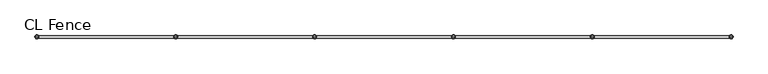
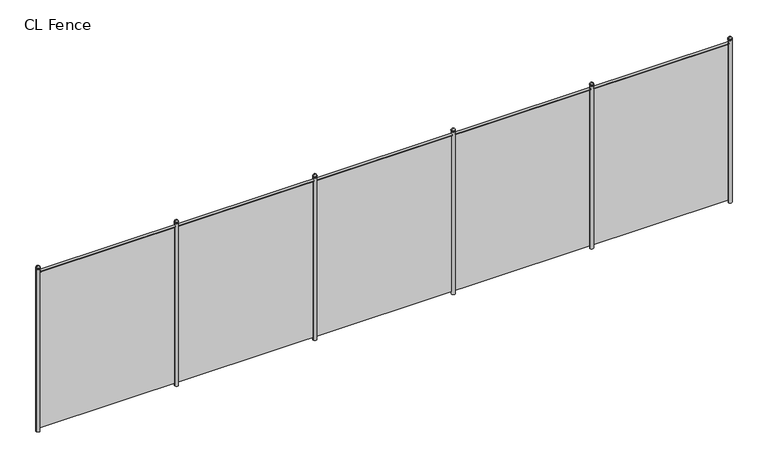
"""IFC4 building model written with IfcOpenShell, lengths in millimetres: geographic element geometry, Alambrado : CL Fence."""

from ifc_helpers import new_model, si_unit, point, frame, frame_2d, origin, place, context, project, spatial, polyline, circle_curve, ellipse_curve, trimmed, segment, composite_curve, outline, extrude, source, transform, mapped, element, save
from ifc_brep_helpers import plane_surface, cylinder_surface, revolved_surface, advanced_brep


def cl_fence_2019edca(model_context):
    return source(origin(), model_context, "Body", "SolidModel", [
        advanced_brep(
        [(9733.8860441, 0.0, 3055.5625), (9794.8724408, 0.0, 3055.5625), (9796.1292425, 0.0, 3055.5625), (9732.6292425, 0.0, 3055.5625), (9764.3792425, 0.0, 3086.0556984), (9732.6292425, 0.0, 3033.3375), (9796.1292425, 0.0, 3033.3375), (9764.3792425, 0.0, 3033.3375), (9732.6292425, 0.0, 3050.8), (9796.1292425, 0.0, 3050.8)],
        [
            (0, 1, circle_curve(frame((9764.3792425, 0.0, 3055.5625), z_axis=(0.0, 0.0, -1.0), x_axis=(1.0, 0.0, 0.0)), 30.4931984)),
            (1, 2),
            (2, 3, circle_curve(frame((9764.3792425, 0.0, 3055.5625), z_axis=(0.0, 0.0, 1.0), x_axis=(1.0, 0.0, 0.0)), 31.75)),
            (3, 0),
            (1, 0, circle_curve(frame((9764.3792425, 0.0, 3055.5625), z_axis=(0.0, 0.0, -1.0), x_axis=(1.0, 0.0, 0.0)), 30.4931984)),
            (3, 2, circle_curve(frame((9764.3792425, 0.0, 3055.5625), z_axis=(0.0, 0.0, 1.0), x_axis=(1.0, 0.0, 0.0)), 31.75)),
            (4, 1, circle_curve(frame((9757.5235753, 0.0, 3048.7068328), z_axis=(0.0, 1.0, 0.0), x_axis=(1.0, 0.0, 0.0)), 37.9728578)),
            (0, 4, circle_curve(frame((9771.2349097, 0.0, 3048.7068328), z_axis=(0.0, 1.0, 0.0), x_axis=(-1.0, 0.0, 0.0)), 37.9728578)),
            (5, 6, circle_curve(frame((9764.3792425, 0.0, 3033.3375), z_axis=(0.0, 0.0, -1.0), x_axis=(1.0, 0.0, 0.0)), 31.75)),
            (6, 7),
            (7, 5),
            (6, 5, circle_curve(frame((9764.3792425, 0.0, 3033.3375), z_axis=(0.0, 0.0, -1.0), x_axis=(1.0, 0.0, 0.0)), 31.75)),
            (8, 9, circle_curve(frame((9764.3792425, 0.0, 3050.8), z_axis=(0.0, 0.0, -1.0), x_axis=(1.0, 0.0, 0.0)), 31.75)),
            (9, 6),
            (5, 8),
            (9, 8, circle_curve(frame((9764.3792425, 0.0, 3050.8), z_axis=(0.0, 0.0, -1.0), x_axis=(1.0, 0.0, 0.0)), 31.75)),
            (2, 9, circle_curve(frame((9796.1292425, 0.0, 3053.18125), z_axis=(0.0, 1.0, 0.0), x_axis=(1.0, 0.0, 0.0)), 2.38125)),
            (8, 3, circle_curve(frame((9732.6292425, 0.0, 3053.18125), z_axis=(0.0, 1.0, 0.0), x_axis=(-1.0, 0.0, 0.0)), 2.38125)),
        ],
        [
            plane_surface(frame((9764.3792425, 0.0, 3055.5625), z_axis=(0.0, 0.0, 1.0), x_axis=(1.0, 0.0, 0.0))),
            revolved_surface(trimmed(ellipse_curve(frame((9757.5235753, 0.0, 3048.7068328), z_axis=(0.0, -1.0, 0.0), x_axis=(1.0, 0.0, 0.0)), 37.9728578, 37.9728578), [point((9794.8724408, 0.0, 3055.5625))], [point((9764.3792425, 0.0, 3086.0556984))], True, "CARTESIAN"), (9764.3792425, 0.0, 3112.7125), (0.0, 0.0, 1.0)),
            plane_surface(frame((9764.3792425, 0.0, 3033.3375), z_axis=(0.0, 0.0, -1.0), x_axis=(1.0, 0.0, 0.0))),
            cylinder_surface(frame((9764.3792425, 0.0, 3112.7125), z_axis=(0.0, 0.0, 1.0), x_axis=(1.0, 0.0, 0.0)), 31.75),
            revolved_surface(trimmed(ellipse_curve(frame((9796.1292425, 0.0, 3053.18125), z_axis=(0.0, -1.0, 0.0), x_axis=(1.0, 0.0, 0.0)), 2.38125, 2.38125), [point((9796.1292425, 0.0, 3050.8))], [point((9796.1292425, 0.0, 3055.5625))], True, "CARTESIAN"), (9764.3792425, 0.0, 3112.7125), (0.0, 0.0, 1.0)),
        ],
        [
            (0, [[1, 2, 3, 4]]),
            (0, [[5, -4, 6, -2]]),
            (1, [[7, -1, 8]]),
            (1, [[-8, -5, -7]]),
            (2, [[9, 10, 11]]),
            (2, [[12, -11, -10]]),
            (3, [[13, 14, -9, 15]]),
            (3, [[16, -15, -12, -14]]),
            (4, [[-3, 17, -13, 18]]),
            (4, [[-6, -18, -16, -17]]),
        ],
    ),
        advanced_brep(
        [(9764.3792425, 0.0, 3050.8), (9794.5417425, 0.0, 3050.8), (9734.2167425, 0.0, 3050.8), (9734.2167425, 0.0, 0.0), (9794.5417425, 0.0, 0.0), (9764.3792425, 0.0, 0.0)],
        [
            (0, 1),
            (1, 2, circle_curve(frame((9764.3792425, 0.0, 3050.8), z_axis=(0.0, 0.0, 1.0), x_axis=(1.0, 0.0, 0.0)), 30.1625)),
            (2, 0),
            (2, 1, circle_curve(frame((9764.3792425, 0.0, 3050.8), z_axis=(0.0, 0.0, 1.0), x_axis=(1.0, 0.0, 0.0)), 30.1625)),
            (3, 4, circle_curve(frame((9764.3792425, 0.0, 0.0), z_axis=(0.0, 0.0, -1.0), x_axis=(1.0, 0.0, 0.0)), 30.1625)),
            (4, 5),
            (5, 3),
            (4, 3, circle_curve(frame((9764.3792425, 0.0, 0.0), z_axis=(0.0, 0.0, -1.0), x_axis=(1.0, 0.0, 0.0)), 30.1625)),
            (1, 4),
            (3, 2),
        ],
        [
            plane_surface(frame((9764.3792425, 0.0, 3050.8), z_axis=(0.0, 0.0, 1.0), x_axis=(1.0, 0.0, 0.0))),
            plane_surface(frame((9764.3792425, 0.0, 0.0), z_axis=(0.0, 0.0, -1.0), x_axis=(1.0, 0.0, 0.0))),
            cylinder_surface(frame((9764.3792425, 0.0, 3101.6), z_axis=(0.0, 0.0, 1.0), x_axis=(1.0, 0.0, 0.0)), 30.1625),
        ],
        [
            (0, [[1, 2, 3]]),
            (0, [[-3, 4, -1]]),
            (1, [[5, 6, 7]]),
            (1, [[8, -7, -6]]),
            (2, [[-2, 9, -5, 10]]),
            (2, [[-4, -10, -8, -9]]),
        ],
    ),
        advanced_brep(
        [(7292.7912335, 0.0, 3055.5625), (7353.7776302, 0.0, 3055.5625), (7355.0344319, 0.0, 3055.5625), (7291.5344319, 0.0, 3055.5625), (7323.2844319, 0.0, 3086.0556984), (7291.5344319, 0.0, 3033.3375), (7355.0344319, 0.0, 3033.3375), (7323.2844319, 0.0, 3033.3375), (7291.5344319, 0.0, 3050.8), (7355.0344319, 0.0, 3050.8)],
        [
            (0, 1, circle_curve(frame((7323.2844319, 0.0, 3055.5625), z_axis=(0.0, 0.0, -1.0), x_axis=(1.0, 0.0, 0.0)), 30.4931984)),
            (1, 2),
            (2, 3, circle_curve(frame((7323.2844319, 0.0, 3055.5625), z_axis=(0.0, 0.0, 1.0), x_axis=(1.0, 0.0, 0.0)), 31.75)),
            (3, 0),
            (1, 0, circle_curve(frame((7323.2844319, 0.0, 3055.5625), z_axis=(0.0, 0.0, -1.0), x_axis=(1.0, 0.0, 0.0)), 30.4931984)),
            (3, 2, circle_curve(frame((7323.2844319, 0.0, 3055.5625), z_axis=(0.0, 0.0, 1.0), x_axis=(1.0, 0.0, 0.0)), 31.75)),
            (4, 1, circle_curve(frame((7316.4287646, 0.0, 3048.7068328), z_axis=(0.0, 1.0, 0.0), x_axis=(1.0, 0.0, 0.0)), 37.9728578)),
            (0, 4, circle_curve(frame((7330.1400991, 0.0, 3048.7068328), z_axis=(0.0, 1.0, 0.0), x_axis=(-1.0, 0.0, 0.0)), 37.9728578)),
            (5, 6, circle_curve(frame((7323.2844319, 0.0, 3033.3375), z_axis=(0.0, 0.0, -1.0), x_axis=(1.0, 0.0, 0.0)), 31.75)),
            (6, 7),
            (7, 5),
            (6, 5, circle_curve(frame((7323.2844319, 0.0, 3033.3375), z_axis=(0.0, 0.0, -1.0), x_axis=(1.0, 0.0, 0.0)), 31.75)),
            (8, 9, circle_curve(frame((7323.2844319, 0.0, 3050.8), z_axis=(0.0, 0.0, -1.0), x_axis=(1.0, 0.0, 0.0)), 31.75)),
            (9, 6),
            (5, 8),
            (9, 8, circle_curve(frame((7323.2844319, 0.0, 3050.8), z_axis=(0.0, 0.0, -1.0), x_axis=(1.0, 0.0, 0.0)), 31.75)),
            (2, 9, circle_curve(frame((7355.0344319, 0.0, 3053.18125), z_axis=(0.0, 1.0, 0.0), x_axis=(1.0, 0.0, 0.0)), 2.38125)),
            (8, 3, circle_curve(frame((7291.5344319, 0.0, 3053.18125), z_axis=(0.0, 1.0, 0.0), x_axis=(-1.0, 0.0, 0.0)), 2.38125)),
        ],
        [
            plane_surface(frame((7323.2844319, 0.0, 3055.5625), z_axis=(0.0, 0.0, 1.0), x_axis=(1.0, 0.0, 0.0))),
            revolved_surface(trimmed(ellipse_curve(frame((7316.4287646, 0.0, 3048.7068328), z_axis=(0.0, -1.0, 0.0), x_axis=(1.0, 0.0, 0.0)), 37.9728578, 37.9728578), [point((7353.7776302, 0.0, 3055.5625))], [point((7323.2844319, 0.0, 3086.0556984))], True, "CARTESIAN"), (7323.2844319, 0.0, 3112.7125), (0.0, 0.0, 1.0)),
            plane_surface(frame((7323.2844319, 0.0, 3033.3375), z_axis=(0.0, 0.0, -1.0), x_axis=(1.0, 0.0, 0.0))),
            cylinder_surface(frame((7323.2844319, 0.0, 3112.7125), z_axis=(0.0, 0.0, 1.0), x_axis=(1.0, 0.0, 0.0)), 31.75),
            revolved_surface(trimmed(ellipse_curve(frame((7355.0344319, 0.0, 3053.18125), z_axis=(0.0, -1.0, 0.0), x_axis=(1.0, 0.0, 0.0)), 2.38125, 2.38125), [point((7355.0344319, 0.0, 3050.8))], [point((7355.0344319, 0.0, 3055.5625))], True, "CARTESIAN"), (7323.2844319, 0.0, 3112.7125), (0.0, 0.0, 1.0)),
        ],
        [
            (0, [[1, 2, 3, 4]]),
            (0, [[5, -4, 6, -2]]),
            (1, [[7, -1, 8]]),
            (1, [[-8, -5, -7]]),
            (2, [[9, 10, 11]]),
            (2, [[12, -11, -10]]),
            (3, [[13, 14, -9, 15]]),
            (3, [[16, -15, -12, -14]]),
            (4, [[-3, 17, -13, 18]]),
            (4, [[-6, -18, -16, -17]]),
        ],
    ),
        advanced_brep(
        [(7323.2844319, 0.0, 3050.8), (7353.4469319, 0.0, 3050.8), (7293.1219319, 0.0, 3050.8), (7293.1219319, 0.0, 0.0), (7353.4469319, 0.0, 0.0), (7323.2844319, 0.0, 0.0)],
        [
            (0, 1),
            (1, 2, circle_curve(frame((7323.2844319, 0.0, 3050.8), z_axis=(0.0, 0.0, 1.0), x_axis=(1.0, 0.0, 0.0)), 30.1625)),
            (2, 0),
            (2, 1, circle_curve(frame((7323.2844319, 0.0, 3050.8), z_axis=(0.0, 0.0, 1.0), x_axis=(1.0, 0.0, 0.0)), 30.1625)),
            (3, 4, circle_curve(frame((7323.2844319, 0.0, 0.0), z_axis=(0.0, 0.0, -1.0), x_axis=(1.0, 0.0, 0.0)), 30.1625)),
            (4, 5),
            (5, 3),
            (4, 3, circle_curve(frame((7323.2844319, 0.0, 0.0), z_axis=(0.0, 0.0, -1.0), x_axis=(1.0, 0.0, 0.0)), 30.1625)),
            (1, 4),
            (3, 2),
        ],
        [
            plane_surface(frame((7323.2844319, 0.0, 3050.8), z_axis=(0.0, 0.0, 1.0), x_axis=(1.0, 0.0, 0.0))),
            plane_surface(frame((7323.2844319, 0.0, 0.0), z_axis=(0.0, 0.0, -1.0), x_axis=(1.0, 0.0, 0.0))),
            cylinder_surface(frame((7323.2844319, 0.0, 3101.6), z_axis=(0.0, 0.0, 1.0), x_axis=(1.0, 0.0, 0.0)), 30.1625),
        ],
        [
            (0, [[1, 2, 3]]),
            (0, [[-3, 4, -1]]),
            (1, [[5, 6, 7]]),
            (1, [[8, -7, -6]]),
            (2, [[-2, 9, -5, 10]]),
            (2, [[-4, -10, -8, -9]]),
        ],
    ),
        advanced_brep(
        [(4851.6964229, 0.0, 3055.5625), (4912.6828196, 0.0, 3055.5625), (4913.9396212, 0.0, 3055.5625), (4850.4396212, 0.0, 3055.5625), (4882.1896212, 0.0, 3086.0556984), (4850.4396212, 0.0, 3033.3375), (4913.9396212, 0.0, 3033.3375), (4882.1896212, 0.0, 3033.3375), (4850.4396212, 0.0, 3050.8), (4913.9396212, 0.0, 3050.8)],
        [
            (0, 1, circle_curve(frame((4882.1896212, 0.0, 3055.5625), z_axis=(0.0, 0.0, -1.0), x_axis=(1.0, 0.0, 0.0)), 30.4931984)),
            (1, 2),
            (2, 3, circle_curve(frame((4882.1896212, 0.0, 3055.5625), z_axis=(0.0, 0.0, 1.0), x_axis=(1.0, 0.0, 0.0)), 31.75)),
            (3, 0),
            (1, 0, circle_curve(frame((4882.1896212, 0.0, 3055.5625), z_axis=(0.0, 0.0, -1.0), x_axis=(1.0, 0.0, 0.0)), 30.4931984)),
            (3, 2, circle_curve(frame((4882.1896212, 0.0, 3055.5625), z_axis=(0.0, 0.0, 1.0), x_axis=(1.0, 0.0, 0.0)), 31.75)),
            (4, 1, circle_curve(frame((4875.333954, 0.0, 3048.7068328), z_axis=(0.0, 1.0, 0.0), x_axis=(1.0, 0.0, 0.0)), 37.9728578)),
            (0, 4, circle_curve(frame((4889.0452885, 0.0, 3048.7068328), z_axis=(0.0, 1.0, 0.0), x_axis=(-1.0, 0.0, 0.0)), 37.9728578)),
            (5, 6, circle_curve(frame((4882.1896212, 0.0, 3033.3375), z_axis=(0.0, 0.0, -1.0), x_axis=(1.0, 0.0, 0.0)), 31.75)),
            (6, 7),
            (7, 5),
            (6, 5, circle_curve(frame((4882.1896212, 0.0, 3033.3375), z_axis=(0.0, 0.0, -1.0), x_axis=(1.0, 0.0, 0.0)), 31.75)),
            (8, 9, circle_curve(frame((4882.1896212, 0.0, 3050.8), z_axis=(0.0, 0.0, -1.0), x_axis=(1.0, 0.0, 0.0)), 31.75)),
            (9, 6),
            (5, 8),
            (9, 8, circle_curve(frame((4882.1896212, 0.0, 3050.8), z_axis=(0.0, 0.0, -1.0), x_axis=(1.0, 0.0, 0.0)), 31.75)),
            (2, 9, circle_curve(frame((4913.9396212, 0.0, 3053.18125), z_axis=(0.0, 1.0, 0.0), x_axis=(1.0, 0.0, 0.0)), 2.38125)),
            (8, 3, circle_curve(frame((4850.4396212, 0.0, 3053.18125), z_axis=(0.0, 1.0, 0.0), x_axis=(-1.0, 0.0, 0.0)), 2.38125)),
        ],
        [
            plane_surface(frame((4882.1896212, 0.0, 3055.5625), z_axis=(0.0, 0.0, 1.0), x_axis=(1.0, 0.0, 0.0))),
            revolved_surface(trimmed(ellipse_curve(frame((4875.333954, 0.0, 3048.7068328), z_axis=(0.0, -1.0, 0.0), x_axis=(1.0, 0.0, 0.0)), 37.9728578, 37.9728578), [point((4912.6828196, 0.0, 3055.5625))], [point((4882.1896212, 0.0, 3086.0556984))], True, "CARTESIAN"), (4882.1896212, 0.0, 3112.7125), (0.0, 0.0, 1.0)),
            plane_surface(frame((4882.1896212, 0.0, 3033.3375), z_axis=(0.0, 0.0, -1.0), x_axis=(1.0, 0.0, 0.0))),
            cylinder_surface(frame((4882.1896212, 0.0, 3112.7125), z_axis=(0.0, 0.0, 1.0), x_axis=(1.0, 0.0, 0.0)), 31.75),
            revolved_surface(trimmed(ellipse_curve(frame((4913.9396212, 0.0, 3053.18125), z_axis=(0.0, -1.0, 0.0), x_axis=(1.0, 0.0, 0.0)), 2.38125, 2.38125), [point((4913.9396212, 0.0, 3050.8))], [point((4913.9396212, 0.0, 3055.5625))], True, "CARTESIAN"), (4882.1896212, 0.0, 3112.7125), (0.0, 0.0, 1.0)),
        ],
        [
            (0, [[1, 2, 3, 4]]),
            (0, [[5, -4, 6, -2]]),
            (1, [[7, -1, 8]]),
            (1, [[-8, -5, -7]]),
            (2, [[9, 10, 11]]),
            (2, [[12, -11, -10]]),
            (3, [[13, 14, -9, 15]]),
            (3, [[16, -15, -12, -14]]),
            (4, [[-3, 17, -13, 18]]),
            (4, [[-6, -18, -16, -17]]),
        ],
    ),
        advanced_brep(
        [(4882.1896212, 0.0, 3050.8), (4912.3521212, 0.0, 3050.8), (4852.0271212, 0.0, 3050.8), (4852.0271212, 0.0, 0.0), (4912.3521212, 0.0, 0.0), (4882.1896212, 0.0, 0.0)],
        [
            (0, 1),
            (1, 2, circle_curve(frame((4882.1896212, 0.0, 3050.8), z_axis=(0.0, 0.0, 1.0), x_axis=(1.0, 0.0, 0.0)), 30.1625)),
            (2, 0),
            (2, 1, circle_curve(frame((4882.1896212, 0.0, 3050.8), z_axis=(0.0, 0.0, 1.0), x_axis=(1.0, 0.0, 0.0)), 30.1625)),
            (3, 4, circle_curve(frame((4882.1896212, 0.0, 0.0), z_axis=(0.0, 0.0, -1.0), x_axis=(1.0, 0.0, 0.0)), 30.1625)),
            (4, 5),
            (5, 3),
            (4, 3, circle_curve(frame((4882.1896212, 0.0, 0.0), z_axis=(0.0, 0.0, -1.0), x_axis=(1.0, 0.0, 0.0)), 30.1625)),
            (1, 4),
            (3, 2),
        ],
        [
            plane_surface(frame((4882.1896212, 0.0, 3050.8), z_axis=(0.0, 0.0, 1.0), x_axis=(1.0, 0.0, 0.0))),
            plane_surface(frame((4882.1896212, 0.0, 0.0), z_axis=(0.0, 0.0, -1.0), x_axis=(1.0, 0.0, 0.0))),
            cylinder_surface(frame((4882.1896212, 0.0, 3101.6), z_axis=(0.0, 0.0, 1.0), x_axis=(1.0, 0.0, 0.0)), 30.1625),
        ],
        [
            (0, [[1, 2, 3]]),
            (0, [[-3, 4, -1]]),
            (1, [[5, 6, 7]]),
            (1, [[8, -7, -6]]),
            (2, [[-2, 9, -5, 10]]),
            (2, [[-4, -10, -8, -9]]),
        ],
    ),
        advanced_brep(
        [(2410.6016123, 0.0, 3055.5625), (2471.588009, 0.0, 3055.5625), (2472.8448106, 0.0, 3055.5625), (2409.3448106, 0.0, 3055.5625), (2441.0948106, 0.0, 3086.0556984), (2409.3448106, 0.0, 3033.3375), (2472.8448106, 0.0, 3033.3375), (2441.0948106, 0.0, 3033.3375), (2409.3448106, 0.0, 3050.8), (2472.8448106, 0.0, 3050.8)],
        [
            (0, 1, circle_curve(frame((2441.0948106, 0.0, 3055.5625), z_axis=(0.0, 0.0, -1.0), x_axis=(1.0, 0.0, 0.0)), 30.4931984)),
            (1, 2),
            (2, 3, circle_curve(frame((2441.0948106, 0.0, 3055.5625), z_axis=(0.0, 0.0, 1.0), x_axis=(1.0, 0.0, 0.0)), 31.75)),
            (3, 0),
            (1, 0, circle_curve(frame((2441.0948106, 0.0, 3055.5625), z_axis=(0.0, 0.0, -1.0), x_axis=(1.0, 0.0, 0.0)), 30.4931984)),
            (3, 2, circle_curve(frame((2441.0948106, 0.0, 3055.5625), z_axis=(0.0, 0.0, 1.0), x_axis=(1.0, 0.0, 0.0)), 31.75)),
            (4, 1, circle_curve(frame((2434.2391434, 0.0, 3048.7068328), z_axis=(0.0, 1.0, 0.0), x_axis=(1.0, 0.0, 0.0)), 37.9728578)),
            (0, 4, circle_curve(frame((2447.9504778, 0.0, 3048.7068328), z_axis=(0.0, 1.0, 0.0), x_axis=(-1.0, 0.0, 0.0)), 37.9728578)),
            (5, 6, circle_curve(frame((2441.0948106, 0.0, 3033.3375), z_axis=(0.0, 0.0, -1.0), x_axis=(1.0, 0.0, 0.0)), 31.75)),
            (6, 7),
            (7, 5),
            (6, 5, circle_curve(frame((2441.0948106, 0.0, 3033.3375), z_axis=(0.0, 0.0, -1.0), x_axis=(1.0, 0.0, 0.0)), 31.75)),
            (8, 9, circle_curve(frame((2441.0948106, 0.0, 3050.8), z_axis=(0.0, 0.0, -1.0), x_axis=(1.0, 0.0, 0.0)), 31.75)),
            (9, 6),
            (5, 8),
            (9, 8, circle_curve(frame((2441.0948106, 0.0, 3050.8), z_axis=(0.0, 0.0, -1.0), x_axis=(1.0, 0.0, 0.0)), 31.75)),
            (2, 9, circle_curve(frame((2472.8448106, 0.0, 3053.18125), z_axis=(0.0, 1.0, 0.0), x_axis=(1.0, 0.0, 0.0)), 2.38125)),
            (8, 3, circle_curve(frame((2409.3448106, 0.0, 3053.18125), z_axis=(0.0, 1.0, 0.0), x_axis=(-1.0, 0.0, 0.0)), 2.38125)),
        ],
        [
            plane_surface(frame((2441.0948106, 0.0, 3055.5625), z_axis=(0.0, 0.0, 1.0), x_axis=(1.0, 0.0, 0.0))),
            revolved_surface(trimmed(ellipse_curve(frame((2434.2391434, 0.0, 3048.7068328), z_axis=(0.0, -1.0, 0.0), x_axis=(1.0, 0.0, 0.0)), 37.9728578, 37.9728578), [point((2471.588009, 0.0, 3055.5625))], [point((2441.0948106, 0.0, 3086.0556984))], True, "CARTESIAN"), (2441.0948106, 0.0, 3112.7125), (0.0, 0.0, 1.0)),
            plane_surface(frame((2441.0948106, 0.0, 3033.3375), z_axis=(0.0, 0.0, -1.0), x_axis=(1.0, 0.0, 0.0))),
            cylinder_surface(frame((2441.0948106, 0.0, 3112.7125), z_axis=(0.0, 0.0, 1.0), x_axis=(1.0, 0.0, 0.0)), 31.75),
            revolved_surface(trimmed(ellipse_curve(frame((2472.8448106, 0.0, 3053.18125), z_axis=(0.0, -1.0, 0.0), x_axis=(1.0, 0.0, 0.0)), 2.38125, 2.38125), [point((2472.8448106, 0.0, 3050.8))], [point((2472.8448106, 0.0, 3055.5625))], True, "CARTESIAN"), (2441.0948106, 0.0, 3112.7125), (0.0, 0.0, 1.0)),
        ],
        [
            (0, [[1, 2, 3, 4]]),
            (0, [[5, -4, 6, -2]]),
            (1, [[7, -1, 8]]),
            (1, [[-8, -5, -7]]),
            (2, [[9, 10, 11]]),
            (2, [[12, -11, -10]]),
            (3, [[13, 14, -9, 15]]),
            (3, [[16, -15, -12, -14]]),
            (4, [[-3, 17, -13, 18]]),
            (4, [[-6, -18, -16, -17]]),
        ],
    ),
        advanced_brep(
        [(2441.0948106, 0.0, 3050.8), (2471.2573106, 0.0, 3050.8), (2410.9323106, 0.0, 3050.8), (2410.9323106, 0.0, 0.0), (2471.2573106, 0.0, 0.0), (2441.0948106, 0.0, 0.0)],
        [
            (0, 1),
            (1, 2, circle_curve(frame((2441.0948106, 0.0, 3050.8), z_axis=(0.0, 0.0, 1.0), x_axis=(1.0, 0.0, 0.0)), 30.1625)),
            (2, 0),
            (2, 1, circle_curve(frame((2441.0948106, 0.0, 3050.8), z_axis=(0.0, 0.0, 1.0), x_axis=(1.0, 0.0, 0.0)), 30.1625)),
            (3, 4, circle_curve(frame((2441.0948106, 0.0, 0.0), z_axis=(0.0, 0.0, -1.0), x_axis=(1.0, 0.0, 0.0)), 30.1625)),
            (4, 5),
            (5, 3),
            (4, 3, circle_curve(frame((2441.0948106, 0.0, 0.0), z_axis=(0.0, 0.0, -1.0), x_axis=(1.0, 0.0, 0.0)), 30.1625)),
            (1, 4),
            (3, 2),
        ],
        [
            plane_surface(frame((2441.0948106, 0.0, 3050.8), z_axis=(0.0, 0.0, 1.0), x_axis=(1.0, 0.0, 0.0))),
            plane_surface(frame((2441.0948106, 0.0, 0.0), z_axis=(0.0, 0.0, -1.0), x_axis=(1.0, 0.0, 0.0))),
            cylinder_surface(frame((2441.0948106, 0.0, 3101.6), z_axis=(0.0, 0.0, 1.0), x_axis=(1.0, 0.0, 0.0)), 30.1625),
        ],
        [
            (0, [[1, 2, 3]]),
            (0, [[-3, 4, -1]]),
            (1, [[5, 6, 7]]),
            (1, [[8, -7, -6]]),
            (2, [[-2, 9, -5, 10]]),
            (2, [[-4, -10, -8, -9]]),
        ],
    ),
        advanced_brep(
        [(12174.9808547, 0.0, 3055.5625), (12235.9672515, 0.0, 3055.5625), (12237.2240531, 0.0, 3055.5625), (12173.7240531, 0.0, 3055.5625), (12205.4740531, 0.0, 3086.0556984), (12173.7240531, 0.0, 3033.3375), (12237.2240531, 0.0, 3033.3375), (12205.4740531, 0.0, 3033.3375), (12173.7240531, 0.0, 3050.8), (12237.2240531, 0.0, 3050.8)],
        [
            (0, 1, circle_curve(frame((12205.4740531, 0.0, 3055.5625), z_axis=(0.0, 0.0, -1.0), x_axis=(1.0, 0.0, 0.0)), 30.4931984)),
            (1, 2),
            (2, 3, circle_curve(frame((12205.4740531, 0.0, 3055.5625), z_axis=(0.0, 0.0, 1.0), x_axis=(1.0, 0.0, 0.0)), 31.75)),
            (3, 0),
            (1, 0, circle_curve(frame((12205.4740531, 0.0, 3055.5625), z_axis=(0.0, 0.0, -1.0), x_axis=(1.0, 0.0, 0.0)), 30.4931984)),
            (3, 2, circle_curve(frame((12205.4740531, 0.0, 3055.5625), z_axis=(0.0, 0.0, 1.0), x_axis=(1.0, 0.0, 0.0)), 31.75)),
            (4, 1, circle_curve(frame((12198.6183859, 0.0, 3048.7068328), z_axis=(0.0, 1.0, 0.0), x_axis=(1.0, 0.0, 0.0)), 37.9728578)),
            (0, 4, circle_curve(frame((12212.3297203, 0.0, 3048.7068328), z_axis=(0.0, 1.0, 0.0), x_axis=(-1.0, 0.0, 0.0)), 37.9728578)),
            (5, 6, circle_curve(frame((12205.4740531, 0.0, 3033.3375), z_axis=(0.0, 0.0, -1.0), x_axis=(1.0, 0.0, 0.0)), 31.75)),
            (6, 7),
            (7, 5),
            (6, 5, circle_curve(frame((12205.4740531, 0.0, 3033.3375), z_axis=(0.0, 0.0, -1.0), x_axis=(1.0, 0.0, 0.0)), 31.75)),
            (8, 9, circle_curve(frame((12205.4740531, 0.0, 3050.8), z_axis=(0.0, 0.0, -1.0), x_axis=(1.0, 0.0, 0.0)), 31.75)),
            (9, 6),
            (5, 8),
            (9, 8, circle_curve(frame((12205.4740531, 0.0, 3050.8), z_axis=(0.0, 0.0, -1.0), x_axis=(1.0, 0.0, 0.0)), 31.75)),
            (2, 9, circle_curve(frame((12237.2240531, 0.0, 3053.18125), z_axis=(0.0, 1.0, 0.0), x_axis=(1.0, 0.0, 0.0)), 2.38125)),
            (8, 3, circle_curve(frame((12173.7240531, 0.0, 3053.18125), z_axis=(0.0, 1.0, 0.0), x_axis=(-1.0, 0.0, 0.0)), 2.38125)),
        ],
        [
            plane_surface(frame((12205.4740531, 0.0, 3055.5625), z_axis=(0.0, 0.0, 1.0), x_axis=(1.0, 0.0, 0.0))),
            revolved_surface(trimmed(ellipse_curve(frame((12198.6183859, 0.0, 3048.7068328), z_axis=(0.0, -1.0, 0.0), x_axis=(1.0, 0.0, 0.0)), 37.9728578, 37.9728578), [point((12235.9672515, 0.0, 3055.5625))], [point((12205.4740531, 0.0, 3086.0556984))], True, "CARTESIAN"), (12205.4740531, 0.0, 3112.7125), (0.0, 0.0, 1.0)),
            plane_surface(frame((12205.4740531, 0.0, 3033.3375), z_axis=(0.0, 0.0, -1.0), x_axis=(1.0, 0.0, 0.0))),
            cylinder_surface(frame((12205.4740531, 0.0, 3112.7125), z_axis=(0.0, 0.0, 1.0), x_axis=(1.0, 0.0, 0.0)), 31.75),
            revolved_surface(trimmed(ellipse_curve(frame((12237.2240531, 0.0, 3053.18125), z_axis=(0.0, -1.0, 0.0), x_axis=(1.0, 0.0, 0.0)), 2.38125, 2.38125), [point((12237.2240531, 0.0, 3050.8))], [point((12237.2240531, 0.0, 3055.5625))], True, "CARTESIAN"), (12205.4740531, 0.0, 3112.7125), (0.0, 0.0, 1.0)),
        ],
        [
            (0, [[1, 2, 3, 4]]),
            (0, [[5, -4, 6, -2]]),
            (1, [[7, -1, 8]]),
            (1, [[-8, -5, -7]]),
            (2, [[9, 10, 11]]),
            (2, [[12, -11, -10]]),
            (3, [[13, 14, -9, 15]]),
            (3, [[16, -15, -12, -14]]),
            (4, [[-3, 17, -13, 18]]),
            (4, [[-6, -18, -16, -17]]),
        ],
    ),
        advanced_brep(
        [(12205.4740531, 0.0, 3050.8), (12235.6365531, 0.0, 3050.8), (12175.3115531, 0.0, 3050.8), (12175.3115531, 0.0, 0.0), (12235.6365531, 0.0, 0.0), (12205.4740531, 0.0, 0.0)],
        [
            (0, 1),
            (1, 2, circle_curve(frame((12205.4740531, 0.0, 3050.8), z_axis=(0.0, 0.0, 1.0), x_axis=(1.0, 0.0, 0.0)), 30.1625)),
            (2, 0),
            (2, 1, circle_curve(frame((12205.4740531, 0.0, 3050.8), z_axis=(0.0, 0.0, 1.0), x_axis=(1.0, 0.0, 0.0)), 30.1625)),
            (3, 4, circle_curve(frame((12205.4740531, 0.0, 0.0), z_axis=(0.0, 0.0, -1.0), x_axis=(1.0, 0.0, 0.0)), 30.1625)),
            (4, 5),
            (5, 3),
            (4, 3, circle_curve(frame((12205.4740531, 0.0, 0.0), z_axis=(0.0, 0.0, -1.0), x_axis=(1.0, 0.0, 0.0)), 30.1625)),
            (1, 4),
            (3, 2),
        ],
        [
            plane_surface(frame((12205.4740531, 0.0, 3050.8), z_axis=(0.0, 0.0, 1.0), x_axis=(1.0, 0.0, 0.0))),
            plane_surface(frame((12205.4740531, 0.0, 0.0), z_axis=(0.0, 0.0, -1.0), x_axis=(1.0, 0.0, 0.0))),
            cylinder_surface(frame((12205.4740531, 0.0, 3101.6), z_axis=(0.0, 0.0, 1.0), x_axis=(1.0, 0.0, 0.0)), 30.1625),
        ],
        [
            (0, [[1, 2, 3]]),
            (0, [[-3, 4, -1]]),
            (1, [[5, 6, 7]]),
            (1, [[8, -7, -6]]),
            (2, [[-2, 9, -5, 10]]),
            (2, [[-4, -10, -8, -9]]),
        ],
    ),
        advanced_brep(
        [(-30.4931984, 0.0, 3055.5625), (30.4931984, 0.0, 3055.5625), (31.75, 0.0, 3055.5625), (-31.75, 0.0, 3055.5625), (0.0, 0.0, 3086.0556984), (-31.75, 0.0, 3033.3375), (31.75, 0.0, 3033.3375), (0.0, 0.0, 3033.3375), (-31.75, 0.0, 3050.8), (31.75, 0.0, 3050.8)],
        [
            (0, 1, circle_curve(frame((0.0, 0.0, 3055.5625), z_axis=(0.0, 0.0, -1.0), x_axis=(1.0, 0.0, 0.0)), 30.4931984)),
            (1, 2),
            (2, 3, circle_curve(frame((0.0, 0.0, 3055.5625), z_axis=(0.0, 0.0, 1.0), x_axis=(1.0, 0.0, 0.0)), 31.75)),
            (3, 0),
            (1, 0, circle_curve(frame((0.0, 0.0, 3055.5625), z_axis=(0.0, 0.0, -1.0), x_axis=(1.0, 0.0, 0.0)), 30.4931984)),
            (3, 2, circle_curve(frame((0.0, 0.0, 3055.5625), z_axis=(0.0, 0.0, 1.0), x_axis=(1.0, 0.0, 0.0)), 31.75)),
            (4, 1, circle_curve(frame((-6.8556672, 0.0, 3048.7068328), z_axis=(0.0, 1.0, 0.0), x_axis=(1.0, 0.0, 0.0)), 37.9728578)),
            (0, 4, circle_curve(frame((6.8556672, 0.0, 3048.7068328), z_axis=(0.0, 1.0, 0.0), x_axis=(-1.0, 0.0, 0.0)), 37.9728578)),
            (5, 6, circle_curve(frame((0.0, 0.0, 3033.3375), z_axis=(0.0, 0.0, -1.0), x_axis=(1.0, 0.0, 0.0)), 31.75)),
            (6, 7),
            (7, 5),
            (6, 5, circle_curve(frame((0.0, 0.0, 3033.3375), z_axis=(0.0, 0.0, -1.0), x_axis=(1.0, 0.0, 0.0)), 31.75)),
            (8, 9, circle_curve(frame((0.0, 0.0, 3050.8), z_axis=(0.0, 0.0, -1.0), x_axis=(1.0, 0.0, 0.0)), 31.75)),
            (9, 6),
            (5, 8),
            (9, 8, circle_curve(frame((0.0, 0.0, 3050.8), z_axis=(0.0, 0.0, -1.0), x_axis=(1.0, 0.0, 0.0)), 31.75)),
            (2, 9, circle_curve(frame((31.75, 0.0, 3053.18125), z_axis=(0.0, 1.0, 0.0), x_axis=(1.0, 0.0, 0.0)), 2.38125)),
            (8, 3, circle_curve(frame((-31.75, 0.0, 3053.18125), z_axis=(0.0, 1.0, 0.0), x_axis=(-1.0, 0.0, 0.0)), 2.38125)),
        ],
        [
            plane_surface(frame((0.0, 0.0, 3055.5625), z_axis=(0.0, 0.0, 1.0), x_axis=(1.0, 0.0, 0.0))),
            revolved_surface(trimmed(ellipse_curve(frame((-6.8556672, 0.0, 3048.7068328), z_axis=(0.0, -1.0, 0.0), x_axis=(1.0, 0.0, 0.0)), 37.9728578, 37.9728578), [point((30.4931984, 0.0, 3055.5625))], [point((0.0, 0.0, 3086.0556984))], True, "CARTESIAN"), (0.0, 0.0, 3112.7125), (0.0, 0.0, 1.0)),
            plane_surface(frame((0.0, 0.0, 3033.3375), z_axis=(0.0, 0.0, -1.0), x_axis=(1.0, 0.0, 0.0))),
            cylinder_surface(frame((0.0, 0.0, 3112.7125), z_axis=(0.0, 0.0, 1.0), x_axis=(1.0, 0.0, 0.0)), 31.75),
            revolved_surface(trimmed(ellipse_curve(frame((31.75, 0.0, 3053.18125), z_axis=(0.0, -1.0, 0.0), x_axis=(1.0, 0.0, 0.0)), 2.38125, 2.38125), [point((31.75, 0.0, 3050.8))], [point((31.75, 0.0, 3055.5625))], True, "CARTESIAN"), (0.0, 0.0, 3112.7125), (0.0, 0.0, 1.0)),
        ],
        [
            (0, [[1, 2, 3, 4]]),
            (0, [[5, -4, 6, -2]]),
            (1, [[7, -1, 8]]),
            (1, [[-8, -5, -7]]),
            (2, [[9, 10, 11]]),
            (2, [[12, -11, -10]]),
            (3, [[13, 14, -9, 15]]),
            (3, [[16, -15, -12, -14]]),
            (4, [[-3, 17, -13, 18]]),
            (4, [[-6, -18, -16, -17]]),
        ],
    ),
        advanced_brep(
        [(0.0, 0.0, 3050.8), (30.1625, 0.0, 3050.8), (-30.1625, 0.0, 3050.8), (-30.1625, 0.0, 0.0), (30.1625, 0.0, 0.0), (0.0, 0.0, 0.0)],
        [
            (0, 1),
            (1, 2, circle_curve(frame((0.0, 0.0, 3050.8), z_axis=(0.0, 0.0, 1.0), x_axis=(1.0, 0.0, 0.0)), 30.1625)),
            (2, 0),
            (2, 1, circle_curve(frame((0.0, 0.0, 3050.8), z_axis=(0.0, 0.0, 1.0), x_axis=(1.0, 0.0, 0.0)), 30.1625)),
            (3, 4, circle_curve(frame((0.0, 0.0, 0.0), z_axis=(0.0, 0.0, -1.0), x_axis=(1.0, 0.0, 0.0)), 30.1625)),
            (4, 5),
            (5, 3),
            (4, 3, circle_curve(frame((0.0, 0.0, 0.0), z_axis=(0.0, 0.0, -1.0), x_axis=(1.0, 0.0, 0.0)), 30.1625)),
            (1, 4),
            (3, 2),
        ],
        [
            plane_surface(frame((0.0, 0.0, 3050.8), z_axis=(0.0, 0.0, 1.0), x_axis=(1.0, 0.0, 0.0))),
            plane_surface(frame((0.0, 0.0, 0.0), z_axis=(0.0, 0.0, -1.0), x_axis=(1.0, 0.0, 0.0))),
            cylinder_surface(frame((0.0, 0.0, 3101.6), z_axis=(0.0, 0.0, 1.0), x_axis=(1.0, 0.0, 0.0)), 30.1625),
        ],
        [
            (0, [[1, 2, 3]]),
            (0, [[-3, 4, -1]]),
            (1, [[5, 6, 7]]),
            (1, [[8, -7, -6]]),
            (2, [[-2, 9, -5, 10]]),
            (2, [[-4, -10, -8, -9]]),
        ],
    ),
        extrude(outline(composite_curve([segment(trimmed(circle_curve(frame_2d((0.0, 2979.3625)), 20.6375), [point((-20.6375, 2979.3625))], [point((20.6375, 2979.3625))], False, "CARTESIAN"), True, "CONTINUOUS"), segment(trimmed(circle_curve(frame_2d((0.0, 2979.3625)), 20.6375), [point((20.6375, 2979.3625))], [point((-20.6375, 2979.3625))], False, "CARTESIAN"), True, "CONTINUOUS")], self_intersect=False)), frame((30.1625, 0.0, 0.0), z_axis=(1.0, 0.0, 0.0), x_axis=(0.0, 1.0, 0.0)), (0.0, 0.0, 1.0), 12145.1490531),
        extrude(outline(polyline([(12175.3115531, 1.5875), (12175.3115531, -1.5875), (30.1625, -1.5875), (30.1625, 1.5875), (12175.3115531, 1.5875)])), frame((0.0, 0.0, 50.8), z_axis=(0.0, 0.0, 1.0), x_axis=(1.0, 0.0, 0.0)), (0.0, 0.0, 1.0), 2928.5625),
    ])


if __name__ == "__main__":
    model = new_model("IFC4")
    model_context = context("Model", 3, world=origin())
    ifc_project = project(units=[si_unit("LENGTHUNIT", "METRE", prefix="MILLI")], contexts=[model_context])
    site = spatial("IfcSite", under=ifc_project)
    building = spatial("IfcBuilding", under=site)
    placement = place(None, origin())
    cl_fence_shape = cl_fence_2019edca(model_context)
    element("IfcGeographicElement", 1, ObjectType="Alambrado : CL Fence", at=placement, inside=building, context=model_context, shape_type="MappedRepresentation", body=[
        mapped(cl_fence_shape, transform((0.0, 0.0, 0.0), x_axis=(1.0, 0.0, 0.0), y_axis=(0.0, 1.0, 0.0), z_axis=(0.0, 0.0, 1.0))),
    ])
    save(model, "model.ifc")
